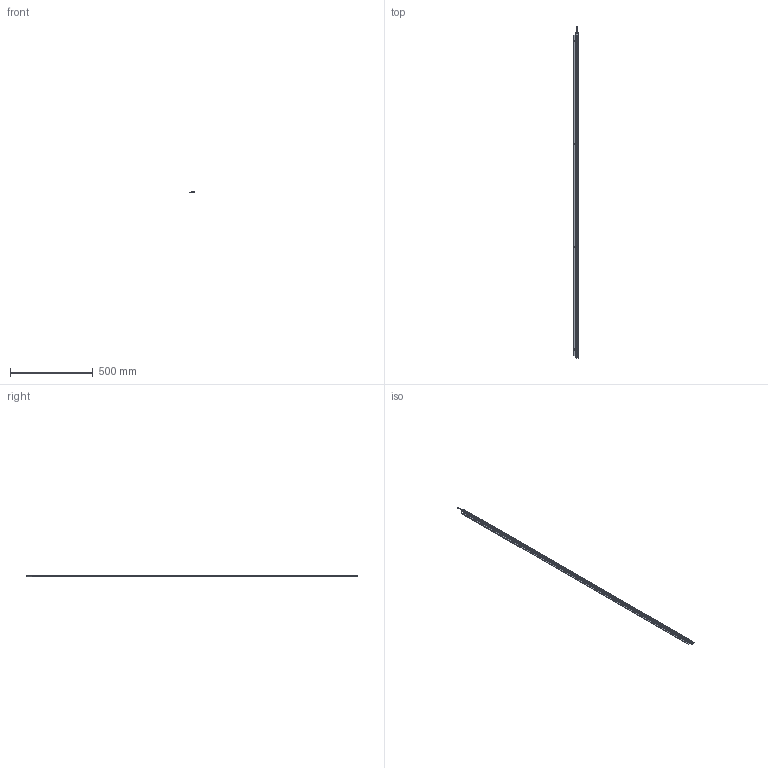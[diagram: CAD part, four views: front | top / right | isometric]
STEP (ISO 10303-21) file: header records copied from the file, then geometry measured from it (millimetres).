
FILE_DESCRIPTION (( 'STEP AP214' ), '1' );
FILE_NAME ('ILGA-L-K1-1960mm.STEP', '2026-04-24T23:07:45', ( '' ), ( '' ), 'SwSTEP 2.0', 'SolidWorks 2025', '' );
FILE_SCHEMA (( 'AUTOMOTIVE_DESIGN' ));
Length unit declared in the file: millimetre
Products named in the file (1): ILGA-L-K1-1960mm
Bounding box: 35 x 2000 x 10.7 mm (x, y, z)
Volume: 203382.3 mm3; surface area: 301774.9 mm2
Topology: 9 solids, 9 shells, 680 faces, 1768 edges, 1080 vertices
Faces by surface type: plane 293, cylinder 245, cone 60, torus 42, bspline 24, sphere 16
Entity records: 28575 total; most frequent: CARTESIAN_POINT 4429, DIRECTION 3606, ORIENTED_EDGE 3448, EDGE_CURVE 1724, AXIS2_PLACEMENT_3D 1345, VERTEX_POINT 1080, VECTOR 916, LINE 916
